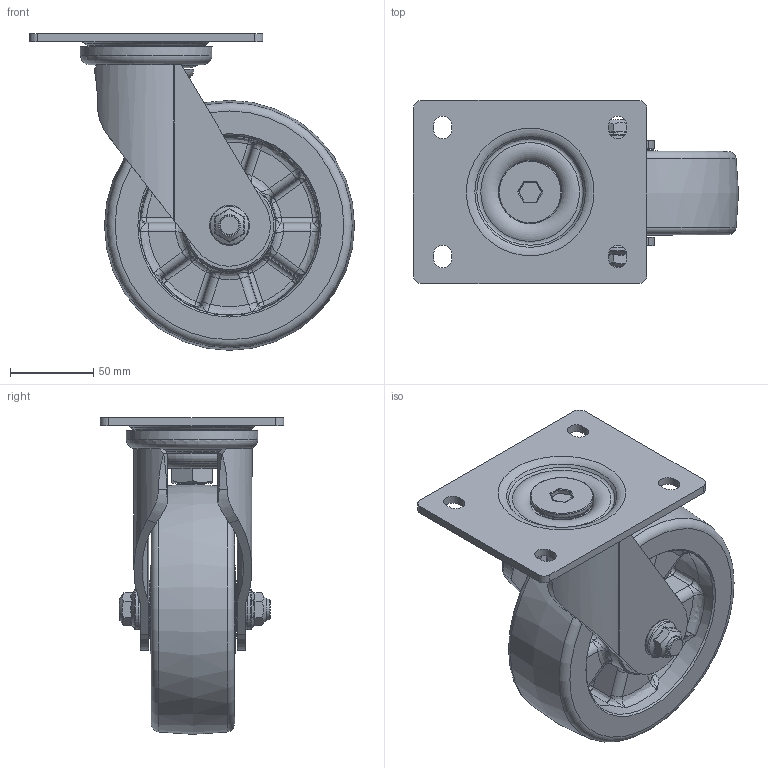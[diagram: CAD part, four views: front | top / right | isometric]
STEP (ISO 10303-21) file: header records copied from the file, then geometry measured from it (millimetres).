
FILE_DESCRIPTION((''),'2;1');
FILE_NAME('C:\Documents and Settings\Administrator\바탕 화면\3D STEP\PMW-SERIES\PMW-150\PMW-150A-SF.stp','2010-12-27T15:06:23',('Administrator'),(''),'Autodesk Inventor 2009','Autodesk Inventor 2009','');
FILE_SCHEMA(('AUTOMOTIVE_DESIGN { 1 0 10303 214 1 1 1 1 }'));
Length unit declared in the file: millimetre
Products named in the file (1): PMW-150A-SF
Bounding box: 195 x 110 x 190 mm (x, y, z)
Volume: 771026.1 mm3; surface area: 187618.4 mm2
Topology: 5 solids, 7 shells, 546 faces, 1290 edges, 783 vertices
Faces by surface type: bspline 230, plane 141, cylinder 97, cone 51, torus 27
Full cylindrical faces by diameter (mm): 12 x1, 15 x1, 15.2 x1, 16 x2, 18 x2, 21.5 x1, 24 x2, 30.5 x2, 35 x2, 35.2 x2, 38 x1, 69 x1, 79 x1
Entity records: 31665 total; most frequent: CARTESIAN_POINT 20714, ORIENTED_EDGE 2360, DIRECTION 1988, EDGE_CURVE 1180, AXIS2_PLACEMENT_3D 860, VERTEX_POINT 749, EDGE_LOOP 679, FACE_OUTER_BOUND 544
